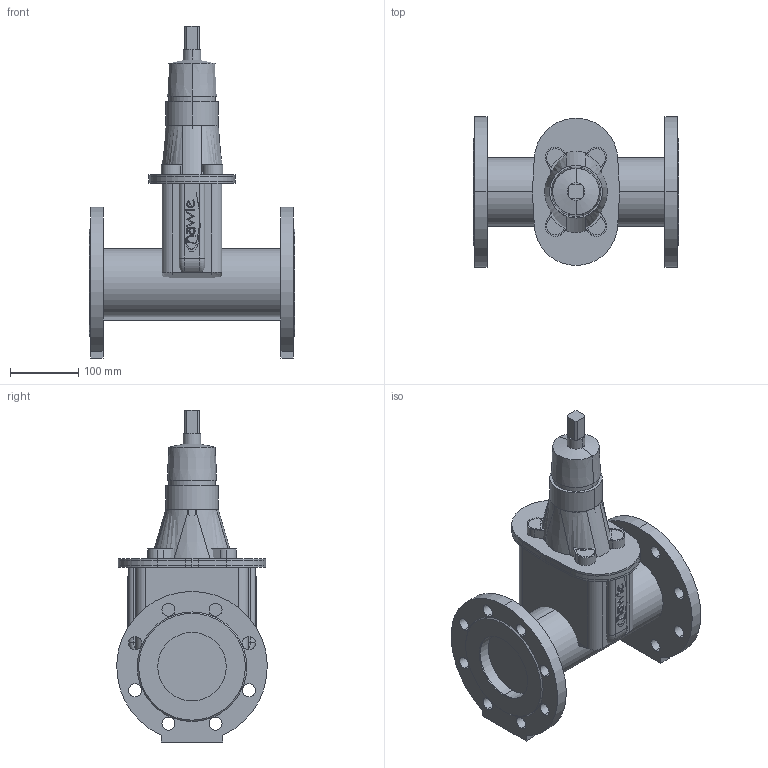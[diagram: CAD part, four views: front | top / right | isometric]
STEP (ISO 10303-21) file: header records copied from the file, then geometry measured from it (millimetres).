
FILE_DESCRIPTION(('STEP AP214'),'1');
FILE_NAME('S:/EK/USER/CAT6/3DHomepage/4700E2/4700E2-PN16-DN100.STP','2012-04-23T12:22:13',(' '),(' '),'Spatial InterOp 3D',' ',' ');
FILE_SCHEMA(('automotive_design'));
Length unit declared in the file: millimetre
Products named in the file (47): 3D-Objekt
Bounding box: 300 x 219.82 x 485 mm (x, y, z)
Volume: 6489652.2 mm3; surface area: 760134 mm2
Topology: 47 solids, 47 shells, 451 faces, 1065 edges, 710 vertices
Faces by surface type: plane 239, cylinder 186, bspline 12, cone 10, torus 4
Entity records: 18042 total; most frequent: CARTESIAN_POINT 2477, DIRECTION 2465, ORIENTED_EDGE 2130, EDGE_CURVE 1065, AXIS2_PLACEMENT_3D 914, VERTEX_POINT 710, LINE 637, VECTOR 637
